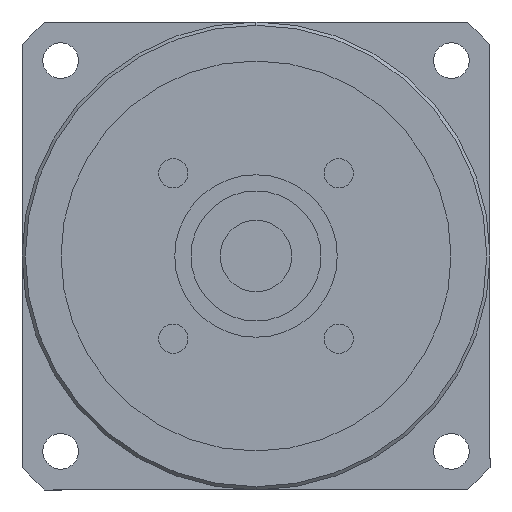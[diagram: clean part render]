
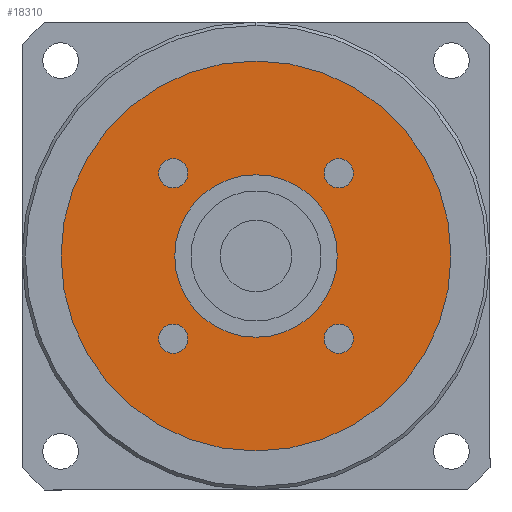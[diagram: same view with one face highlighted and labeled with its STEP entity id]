
A CAD part, left-side view. The second image highlights one B-rep face of the part: STEP entity #18310.
In plain terms, the highlighted planar face has unit normal (-1, 0, 0) as drawn and (0, 0, -1) by its records, which use the part's own axes.
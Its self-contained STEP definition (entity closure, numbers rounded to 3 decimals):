
#15130=CARTESIAN_POINT('',(-10.478,-12.728,-91.));
#15140=VERTEX_POINT('',#15130);
#15320=CARTESIAN_POINT('',(-14.978,-12.728,-91.));
#15330=VERTEX_POINT('',#15320);
#15360=CARTESIAN_POINT('',(-12.728,-12.728,-91.));
#15370=DIRECTION('',(0.,0.,-1.));
#15380=DIRECTION('',(0.,-1.,0.));
#15390=AXIS2_PLACEMENT_3D('',#15360,#15370,#15380);
#15400=CIRCLE('',#15390,2.25);
#15410=CARTESIAN_POINT('',(-12.728,-14.978,-91.));
#15420=VERTEX_POINT('',#15410);
#15430=EDGE_CURVE('',#15420,#15330,#15400,.T.);
#15450=EDGE_CURVE('',#15140,#15420,#15400,.T.);
#15550=CARTESIAN_POINT('',(0.,0.,
-91.));
#15560=DIRECTION('',(0.,0.,1.));
#15570=DIRECTION('',(0.,-1.,0.));
#15580=AXIS2_PLACEMENT_3D('',#15550,#15560,#15570);
#15590=CIRCLE('',#15580,12.5);
#15600=CARTESIAN_POINT('',(0.,-12.5,-91.));
#15610=VERTEX_POINT('',#15600);
#15620=CARTESIAN_POINT('',(12.5,0.,-91.));
#15630=VERTEX_POINT('',#15620);
#15640=EDGE_CURVE('',#15610,#15630,#15590,.T.);
#15870=CARTESIAN_POINT('',(-12.5,0.,-91.));
#15880=VERTEX_POINT('',#15870);
#15910=EDGE_CURVE('',#15880,#15610,#15590,.T.);
#17240=CARTESIAN_POINT('',(30.,0.,-91.));
#17250=VERTEX_POINT('',#17240);
#17280=CARTESIAN_POINT('',(0.,0.,
-91.));
#17290=DIRECTION('',(0.,0.,1.));
#17300=DIRECTION('',(0.,-1.,0.));
#17310=AXIS2_PLACEMENT_3D('',#17280,#17290,#17300);
#17320=CIRCLE('',#17310,30.);
#17330=CARTESIAN_POINT('',(0.,-30.,-91.));
#17340=VERTEX_POINT('',#17330);
#17350=EDGE_CURVE('',#17340,#17250,#17320,.T.);
#17370=CARTESIAN_POINT('',(-30.,0.,-91.));
#17380=VERTEX_POINT('',#17370);
#17390=EDGE_CURVE('',#17380,#17340,#17320,.T.);
#17510=CARTESIAN_POINT('',(0.,0.,
-91.));
#17520=DIRECTION('',(0.,0.,1.));
#17530=DIRECTION('',(-1.,0.,0.));
#17540=AXIS2_PLACEMENT_3D('',#17510,#17520,#17530);
#17550=PLANE('',#17540);
#17560=CARTESIAN_POINT('',(12.728,-12.728,-91.));
#17570=DIRECTION('',(0.,0.,-1.));
#17580=DIRECTION('',(1.,0.,0.));
#17590=AXIS2_PLACEMENT_3D('',#17560,#17570,#17580);
#17600=CIRCLE('',#17590,2.25);
#17610=CARTESIAN_POINT('',(14.978,-12.728,-91.));
#17620=VERTEX_POINT('',#17610);
#17630=CARTESIAN_POINT('',(12.728,-14.978,-91.));
#17640=VERTEX_POINT('',#17630);
#17650=EDGE_CURVE('',#17620,#17640,#17600,.T.);
#17660=ORIENTED_EDGE('',*,*,#17650,.F.);
#17670=CARTESIAN_POINT('',(12.728,-10.478,-91.));
#17680=VERTEX_POINT('',#17670);
#17690=EDGE_CURVE('',#17640,#17680,#17600,.T.);
#17700=ORIENTED_EDGE('',*,*,#17690,.F.);
#17710=EDGE_CURVE('',#17680,#17620,#17600,.T.);
#17720=ORIENTED_EDGE('',*,*,#17710,.F.);
#17730=EDGE_LOOP('',(#17720,#17700,#17660));
#17740=FACE_BOUND('',#17730,.T.);
#17750=CARTESIAN_POINT('',(12.728,12.728,-91.));
#17760=DIRECTION('',(0.,0.,-1.));
#17770=DIRECTION('',(0.,1.,0.));
#17780=AXIS2_PLACEMENT_3D('',#17750,#17760,#17770);
#17790=CIRCLE('',#17780,2.25);
#17800=CARTESIAN_POINT('',(12.728,14.978,-91.));
#17810=VERTEX_POINT('',#17800);
#17820=CARTESIAN_POINT('',(14.978,12.728,-91.));
#17830=VERTEX_POINT('',#17820);
#17840=EDGE_CURVE('',#17810,#17830,#17790,.T.);
#17850=ORIENTED_EDGE('',*,*,#17840,.F.);
#17860=CARTESIAN_POINT('',(10.478,12.728,-91.));
#17870=VERTEX_POINT('',#17860);
#17880=EDGE_CURVE('',#17830,#17870,#17790,.T.);
#17890=ORIENTED_EDGE('',*,*,#17880,.F.);
#17900=EDGE_CURVE('',#17870,#17810,#17790,.T.);
#17910=ORIENTED_EDGE('',*,*,#17900,.F.);
#17920=EDGE_LOOP('',(#17910,#17890,#17850));
#17930=FACE_BOUND('',#17920,.T.);
#17940=CARTESIAN_POINT('',(-12.728,12.728,-91.));
#17950=DIRECTION('',(0.,0.,-1.));
#17960=DIRECTION('',(-1.,0.,0.));
#17970=AXIS2_PLACEMENT_3D('',#17940,#17950,#17960);
#17980=CIRCLE('',#17970,2.25);
#17990=CARTESIAN_POINT('',(-14.978,12.728,-91.));
#18000=VERTEX_POINT('',#17990);
#18010=CARTESIAN_POINT('',(-12.728,14.978,-91.));
#18020=VERTEX_POINT('',#18010);
#18030=EDGE_CURVE('',#18000,#18020,#17980,.T.);
#18040=ORIENTED_EDGE('',*,*,#18030,.F.);
#18050=CARTESIAN_POINT('',(-12.728,10.478,-91.));
#18060=VERTEX_POINT('',#18050);
#18070=EDGE_CURVE('',#18020,#18060,#17980,.T.);
#18080=ORIENTED_EDGE('',*,*,#18070,.F.);
#18090=EDGE_CURVE('',#18060,#18000,#17980,.T.);
#18100=ORIENTED_EDGE('',*,*,#18090,.F.);
#18110=EDGE_LOOP('',(#18100,#18080,#18040));
#18120=FACE_BOUND('',#18110,.T.);
#18130=ORIENTED_EDGE('',*,*,#15430,.F.);
#18140=EDGE_CURVE('',#15330,#15140,#15400,.T.);
#18150=ORIENTED_EDGE('',*,*,#18140,.F.);
#18160=ORIENTED_EDGE('',*,*,#15450,.F.);
#18170=EDGE_LOOP('',(#18160,#18150,#18130));
#18180=FACE_BOUND('',#18170,.T.);
#18190=ORIENTED_EDGE('',*,*,#17350,.F.);
#18200=EDGE_CURVE('',#17250,#17380,#17320,.T.);
#18210=ORIENTED_EDGE('',*,*,#18200,.F.);
#18220=ORIENTED_EDGE('',*,*,#17390,.F.);
#18230=EDGE_LOOP('',(#18220,#18210,#18190));
#18240=FACE_OUTER_BOUND('',#18230,.T.);
#18250=EDGE_CURVE('',#15630,#15880,#15590,.T.);
#18260=ORIENTED_EDGE('',*,*,#18250,.T.);
#18270=ORIENTED_EDGE('',*,*,#15640,.T.);
#18280=ORIENTED_EDGE('',*,*,#15910,.T.);
#18290=EDGE_LOOP('',(#18280,#18270,#18260));
#18300=FACE_BOUND('',#18290,.T.);
#18310=ADVANCED_FACE('',(#17740,#17930,#18120,#18180,#18240,#18300),
#17550,.F.);
